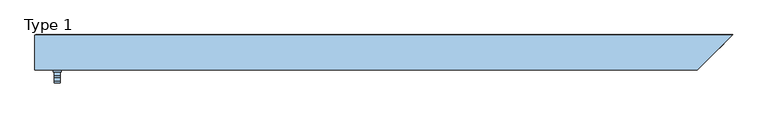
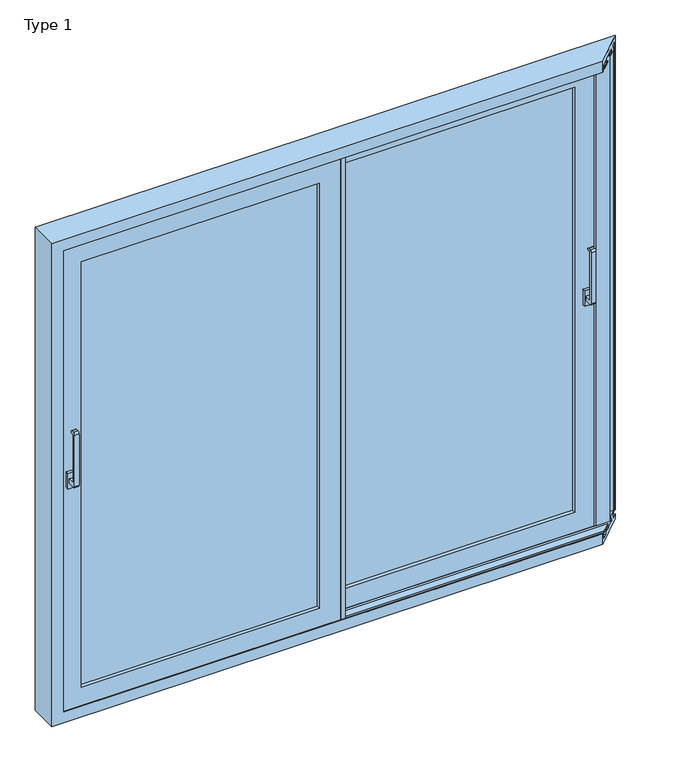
"""IFC4 building model written with IfcOpenShell, lengths in millimetres: window geometry, ETEM_E50_Double_Lift_Sliding-Corner Profile : Type 1."""

from ifc_helpers import new_model, si_unit, point, frame, frame_2d, origin, place, context, project, spatial, polyline, circle_curve, trimmed, segment, composite_curve, outline, extrude, faceted_brep, source, transform, mapped, element, save


def type_1_023e9ecd(model_context):
    return source(origin(), model_context, "Body", "SolidModel", [
        extrude(outline(polyline([(1109.8, 36.4240972), (1079.8, 36.4240972), (1079.8, 49.4240972), (1109.8, 49.4240972), (1109.8, 36.4240972)])), frame((0.0, 0.0, 1065.0), z_axis=(0.0, 0.0, 1.0), x_axis=(1.0, 0.0, 0.0)), (0.0, 0.0, 1.0), 70.0),
        extrude(outline(composite_curve([segment(polyline([(36.4240972, 1090.0), (4.8504124, 1090.0)]), True, "CONTINUOUS"), segment(trimmed(circle_curve(frame_2d((4.8504124, 1098.4263152)), 8.4263152), [point((4.8504124, 1090.0))], [point((-3.5759028, 1098.4263152))], False, "CARTESIAN"), True, "CONTINUOUS"), segment(polyline([(-3.5759028, 1098.4263152), (-3.5759028, 1331.5736848)]), True, "CONTINUOUS"), segment(trimmed(circle_curve(frame_2d((4.8504124, 1331.5736848)), 8.4263152), [point((-3.5759028, 1331.5736848))], [point((4.8504124, 1340.0))], False, "CARTESIAN"), True, "CONTINUOUS"), segment(polyline([(4.8504124, 1340.0), (16.4240972, 1340.0)]), True, "CONTINUOUS"), segment(trimmed(circle_curve(frame_2d((16.4240972, 1335.0)), 5.0), [point((16.4240972, 1340.0))], [point((16.4240972, 1330.0))], False, "CARTESIAN"), True, "CONTINUOUS"), segment(polyline([(16.4240972, 1330.0), (9.9596311, 1330.0)]), True, "CONTINUOUS"), segment(trimmed(circle_curve(frame_2d((9.9596311, 1326.4644661)), 3.5355339), [point((9.9596311, 1330.0))], [point((6.4240972, 1326.4644661))], True, "CARTESIAN"), True, "CONTINUOUS"), segment(polyline([(6.4240972, 1326.4644661), (6.4240972, 1113.5355339)]), True, "CONTINUOUS"), segment(trimmed(circle_curve(frame_2d((9.9596311, 1113.5355339)), 3.5355339), [point((6.4240972, 1113.5355339))], [point((9.9596311, 1110.0))], True, "CARTESIAN"), True, "CONTINUOUS"), segment(polyline([(9.9596311, 1110.0), (36.4240972, 1110.0), (36.4240972, 1090.0)]), True, "CONTINUOUS")], self_intersect=False)), frame((1084.8, 0.0, 0.0), z_axis=(1.0, 0.0, 0.0), x_axis=(0.0, 1.0, 0.0)), (0.0, 0.0, 1.0), 20.0),
        extrude(outline(polyline([(-1154.999965, -28.6518056), (-1184.999965, -28.6518056), (-1184.999965, -15.6518056), (-1154.999965, -15.6518056), (-1154.999965, -28.6518056)])), frame((0.0, 0.0, 1065.0), z_axis=(0.0, 0.0, 1.0), x_axis=(1.0, 0.0, 0.0)), (0.0, 0.0, 1.0), 70.0),
        extrude(outline(composite_curve([segment(polyline([(-28.6518056, 1090.0), (-60.2254904, 1090.0)]), True, "CONTINUOUS"), segment(trimmed(circle_curve(frame_2d((-60.2254904, 1098.4263152)), 8.4263152), [point((-60.2254904, 1090.0))], [point((-68.6518056, 1098.4263152))], False, "CARTESIAN"), True, "CONTINUOUS"), segment(polyline([(-68.6518056, 1098.4263152), (-68.6518056, 1331.5736848)]), True, "CONTINUOUS"), segment(trimmed(circle_curve(frame_2d((-60.2254904, 1331.5736848)), 8.4263152), [point((-68.6518056, 1331.5736848))], [point((-60.2254904, 1340.0))], False, "CARTESIAN"), True, "CONTINUOUS"), segment(polyline([(-60.2254904, 1340.0), (-48.6518056, 1340.0)]), True, "CONTINUOUS"), segment(trimmed(circle_curve(frame_2d((-48.6518056, 1335.0)), 5.0), [point((-48.6518056, 1340.0))], [point((-48.6518056, 1330.0))], False, "CARTESIAN"), True, "CONTINUOUS"), segment(polyline([(-48.6518056, 1330.0), (-55.1162717, 1330.0)]), True, "CONTINUOUS"), segment(trimmed(circle_curve(frame_2d((-55.1162717, 1326.4644661)), 3.5355339), [point((-55.1162717, 1330.0))], [point((-58.6518056, 1326.4644661))], True, "CARTESIAN"), True, "CONTINUOUS"), segment(polyline([(-58.6518056, 1326.4644661), (-58.6518056, 1113.5355339)]), True, "CONTINUOUS"), segment(trimmed(circle_curve(frame_2d((-55.1162717, 1113.5355339)), 3.5355339), [point((-58.6518056, 1113.5355339))], [point((-55.1162717, 1110.0))], True, "CARTESIAN"), True, "CONTINUOUS"), segment(polyline([(-55.1162717, 1110.0), (-28.6518056, 1110.0), (-28.6518056, 1090.0)]), True, "CONTINUOUS")], self_intersect=False)), frame((-1179.999965, 0.0, 0.0), z_axis=(1.0, 0.0, 0.0), x_axis=(0.0, 1.0, 0.0)), (0.0, 0.0, 1.0), 20.0),
        faceted_brep([(-2.1, -10.9518056, 2160.5), (-2.1, -15.6518056, 2160.5), (-2.1, -15.6518056, 39.5), (-2.1, -10.9518056, 39.5), (-1210.499965, -15.6518056, 2160.5), (-1210.499965, -15.6518056, 39.5), (-93.6, -15.6518056, 131.0), (-1118.999965, -15.6518056, 131.0), (-1118.999965, -15.6518056, 2069.0), (-93.6, -15.6518056, 2069.0), (-1210.499965, -10.9518056, 39.5), (-1210.499965, -10.9518056, 2160.5), (-31.3, -10.9518056, 2131.3), (-1181.299965, -10.9518056, 2131.3), (-1181.299965, -10.9518056, 68.7), (-31.3, -10.9518056, 68.7), (-31.3, 29.6481944, 2131.3), (-31.3, 29.6481944, 68.7), (-1181.299965, 29.6481944, 68.7), (-2.1, 29.6481944, 2160.5), (-1210.499965, 29.6481944, 2160.5), (-1210.499965, 29.6481944, 39.5), (-2.1, 29.6481944, 39.5), (-1181.299965, 29.6481944, 2131.3), (-2.1, 34.3481944, 2160.5), (-2.1, 34.3481944, 39.5), (-1210.499965, 34.3481944, 39.5), (-1210.499965, 34.3481944, 2160.5), (-93.6, 34.3481944, 2069.0), (-1118.999965, 34.3481944, 2069.0), (-1118.999965, 34.3481944, 131.0), (-93.6, 34.3481944, 131.0)], [[[0, 1, 2, 3]], [[1, 4, 5, 2], [6, 7, 8, 9]], [[3, 2, 5, 10]], [[3, 10, 11, 0], [12, 13, 14, 15]], [[16, 12, 15, 17]], [[17, 15, 14, 18]], [[19, 20, 21, 22], [17, 18, 23, 16]], [[24, 19, 22, 25]], [[25, 22, 21, 26]], [[25, 26, 27, 24], [28, 29, 30, 31]], [[10, 5, 4, 11]], [[18, 14, 13, 23]], [[26, 21, 20, 27]], [[6, 31, 30, 7]], [[7, 30, 29, 8]], [[9, 28, 31, 6]], [[11, 4, 1, 0]], [[23, 13, 12, 16]], [[27, 20, 19, 24]], [[8, 29, 28, 9]]]),
        faceted_brep([(-73.1, 94.6481944, 2160.5), (-73.1, 99.3481944, 2160.5), (-73.1, 99.3481944, 39.5), (-73.1, 94.6481944, 39.5), (1135.299965, 99.3481944, 39.5), (1135.299965, 94.6481944, 39.5), (1135.299965, 99.3481944, 2160.5), (1043.8, 99.3481944, 130.999965), (1043.8, 99.3481944, 2069.000035), (18.399965, 99.3481944, 2069.000035), (18.399965, 99.3481944, 130.999965), (1135.299965, 94.6481944, 2160.5), (-43.9, 94.6481944, 68.7), (-43.9, 94.6481944, 2131.3), (1106.099965, 94.6481944, 2131.3), (1106.099965, 94.6481944, 68.7), (-43.9, 54.0481944, 2131.3), (-43.9, 54.0481944, 68.7), (1106.099965, 54.0481944, 68.7), (1106.099965, 54.0481944, 2131.3), (-73.1, 54.0481944, 39.5), (-73.1, 54.0481944, 2160.5), (1135.299965, 54.0481944, 2160.5), (1135.299965, 54.0481944, 39.5), (-73.1, 49.4240972, 2160.5), (-73.1, 49.4240972, 39.5), (1135.299965, 49.4240972, 39.5), (1135.299965, 49.4240972, 2160.5), (18.399965, 49.4240972, 130.999965), (18.399965, 49.4240972, 2069.000035), (1043.8, 49.4240972, 2069.000035), (1043.8, 49.4240972, 130.999965)], [[[0, 1, 2, 3]], [[3, 2, 4, 5]], [[2, 1, 6, 4], [7, 8, 9, 10]], [[5, 4, 6, 11]], [[5, 11, 0, 3], [12, 13, 14, 15]], [[16, 13, 12, 17]], [[17, 12, 15, 18]], [[18, 15, 14, 19]], [[20, 21, 22, 23], [18, 19, 16, 17]], [[24, 21, 20, 25]], [[25, 20, 23, 26]], [[26, 23, 22, 27]], [[26, 27, 24, 25], [28, 29, 30, 31]], [[9, 29, 28, 10]], [[10, 28, 31, 7]], [[7, 31, 30, 8]], [[11, 6, 1, 0]], [[19, 14, 13, 16]], [[27, 22, 21, 24]], [[8, 30, 29, 9]]]),
        extrude(outline(polyline([(18.399965, -15.6518056), (-2.1, -15.6518056), (-2.1, 45.3481944), (18.399965, 45.3481944), (18.399965, -15.6518056)])), frame((0.0, 0.0, 39.5), z_axis=(0.0, 0.0, 1.0), x_axis=(1.0, 0.0, 0.0)), (0.0, 0.0, 1.0), 2121.0),
        extrude(outline(polyline([(-93.6, 38.3481944), (-93.6, 99.3481944), (-73.1, 99.3481944), (-73.1, 38.3481944), (-93.6, 38.3481944)])), frame((0.0, 0.0, 39.5), z_axis=(0.0, 0.0, 1.0), x_axis=(1.0, 0.0, 0.0)), (0.0, 0.0, 1.0), 2121.0),
        extrude(outline(polyline([(-93.6, 0.3481944), (-1118.999965, 0.3481944), (-1118.999965, 5.3481944), (-93.6, 5.3481944), (-93.6, 0.3481944)])), frame((0.0, 0.0, 131.0), z_axis=(0.0, 0.0, 1.0), x_axis=(1.0, 0.0, 0.0)), (0.0, 0.0, 1.0), 1938.0),
        extrude(outline(polyline([(18.399965, 91.3480733), (1043.8, 91.3480733), (1043.8, 86.3480733), (18.399965, 86.3480733), (18.399965, 91.3480733)])), frame((0.0, 0.0, 130.999965), z_axis=(0.0, 0.0, 1.0), x_axis=(1.0, 0.0, 0.0)), (0.0, 0.0, 1.0), 1938.00007),
        faceted_brep([(-1246.499965, 103.5481944, 0.0), (-1246.499965, 105.0, 0.0), (-1201.499965, 105.0, 0.0), (-1201.499965, 103.5481944, 0.0), (1250.0, 103.5481944, 0.0), (1125.2, -21.2518056, 0.0), (-1250.0, -21.2518056, 0.0), (-1250.0, 103.5481944, 0.0), (-1246.499965, 103.5481944, 2196.499965), (-1246.499965, 105.0, 2196.499965), (1251.5, 105.0, 2196.499965), (1251.4518056, 105.0, 2151.499965), (-1201.499965, 105.0, 2151.499965), (-1201.499965, 101.4, 2151.499965), (-1201.499965, 101.4, 19.8), (-1201.499965, 103.5481944, 19.8), (1250.0, 103.5481944, 19.8), (-1250.0, 103.5481944, 2200.0), (1250.0, 103.5481944, 2200.0), (1250.0, 103.5481944, 2196.499965), (1238.5, 92.0481944, 19.8), (1238.5, 92.0481944, 21.8), (1225.3, 78.8481944, 21.8), (1225.3, 78.8481944, 40.5), (1236.8, 90.3481944, 40.5), (1236.8, 90.3481944, 48.5), (1204.8, 58.3481944, 48.5), (1204.8, 58.3481944, 40.5), (1216.3, 69.8481944, 40.5), (1216.3, 69.8481944, 21.8), (1160.3, 13.8481944, 21.8), (1160.3, 13.8481944, 40.5), (1171.8, 25.3481944, 40.5), (1171.8, 25.3481944, 48.5), (1139.8, -6.6518056, 48.5), (1139.8, -6.6518056, 40.5), (1151.3, 4.8481944, 40.5), (1151.3, 4.8481944, 21.8), (1128.8, -17.6518056, 21.8), (1128.8, -17.6518056, 48.5), (1125.2, -21.2518056, 48.5), (-1201.5, -21.2518056, 48.5), (-1201.5, -21.2518056, 2151.5), (1125.2, -21.2518056, 2151.5), (1125.2, -21.2518056, 2200.0), (-1250.0, -21.2518056, 2200.0), (-1228.2, 92.0481944, 21.8), (-1228.2, 78.8481944, 21.8), (-1228.199965, 92.0481944, 19.8), (-1228.199965, 101.4, 19.8), (-1228.199965, 101.4, 2178.199965), (-1228.199965, 78.8481944, 2178.2), (1225.3, 78.8481944, 2178.2), (1225.3, 78.8481944, 2159.5), (-1209.5, 78.8481944, 2159.5), (-1209.5, 78.8481944, 40.5), (-1209.5, 90.3481944, 40.5), (-1209.5, 90.3481944, 2159.5), (1236.8, 90.3481944, 2159.5), (1236.8, 90.3481944, 2151.5), (-1201.5, 90.3481944, 2151.5), (-1201.5, 90.3481944, 48.5), (-1201.5, 58.3481944, 48.5), (-1201.5, 58.3481944, 2151.5), (1204.8, 58.3481944, 2151.5), (1204.8, 58.3481944, 2159.5), (-1209.5, 58.3481944, 2159.5), (-1209.5, 58.3481944, 40.5), (-1228.2, 69.8481944, 21.8), (-1228.2, 13.8481944, 21.8), (-1228.2, 69.8481944, 2178.2), (-1228.2, 13.8481944, 2178.2), (1160.3, 13.8481944, 2178.2), (1160.3, 13.8481944, 2159.5), (-1209.5, 13.8481944, 2159.5), (-1209.5, 13.8481944, 40.5), (-1209.5, 69.8481944, 40.5), (-1209.5, 69.8481944, 2159.5), (1216.3, 69.8481944, 2159.5), (1216.3, 69.8481944, 2178.2), (-1201.5, 25.3481944, 48.5), (-1201.5, -6.6518056, 48.5), (-1201.5, 25.3481944, 2151.5), (-1201.5, -6.6518056, 2151.5), (1139.8, -6.6518056, 2151.5), (1139.8, -6.6518056, 2159.5), (-1209.5, -6.6518056, 2159.5), (-1209.5, -6.6518056, 40.5), (-1209.5, 25.3481944, 40.5), (-1209.5, 25.3481944, 2159.5), (1171.8, 25.3481944, 2159.5), (1171.8, 25.3481944, 2151.5), (-1228.2, 4.8481944, 21.8), (-1228.2, -17.6518056, 21.8), (-1228.2, 4.8481944, 2178.2), (-1228.2, -17.6518056, 2178.2), (1128.8, -17.6518056, 2178.2), (1128.8, -17.6518056, 2151.5), (-1201.5, -17.6518056, 2151.5), (-1201.5, -17.6518056, 48.5), (-1209.5, 4.8481944, 40.5), (-1209.5, 4.8481944, 2159.5), (1151.3, 4.8481944, 2159.5), (1151.3, 4.8481944, 2178.2), (1247.8518056, 101.4, 2151.499965), (1247.8518056, 101.4, 2178.199965)], [[[0, 1, 2, 3, 4, 5, 6, 7]], [[1, 0, 8, 9]], [[2, 1, 9, 10, 11, 12]], [[12, 13, 14, 15, 3, 2]], [[4, 3, 15, 16]], [[7, 17, 18, 19, 8, 0]], [[5, 4, 16, 20, 21, 22, 23, 24, 25, 26, 27, 28, 29, 30, 31, 32, 33, 34, 35, 36, 37, 38, 39, 40]], [[41, 42, 43, 44, 45, 6, 5, 40]], [[7, 6, 45, 17]], [[46, 47, 22, 21]], [[47, 46, 48, 49, 50, 51]], [[47, 51, 52, 53, 54, 55, 23, 22]], [[48, 46, 21, 20]], [[55, 56, 24, 23]], [[55, 54, 57, 56]], [[56, 57, 58, 59, 60, 61, 25, 24]], [[61, 62, 26, 25]], [[61, 60, 63, 62]], [[62, 63, 64, 65, 66, 67, 27, 26]], [[68, 69, 30, 29]], [[68, 70, 71, 69]], [[69, 71, 72, 73, 74, 75, 31, 30]], [[76, 77, 78, 79, 70, 68, 29, 28]], [[80, 81, 34, 33]], [[81, 80, 82, 83]], [[81, 83, 84, 85, 86, 87, 35, 34]], [[88, 89, 90, 91, 82, 80, 33, 32]], [[75, 88, 32, 31]], [[75, 74, 89, 88]], [[92, 93, 38, 37]], [[92, 94, 95, 93]], [[93, 95, 96, 97, 98, 99, 39, 38]], [[100, 101, 102, 103, 94, 92, 37, 36]], [[99, 41, 40, 39]], [[99, 98, 42, 41]], [[67, 76, 28, 27]], [[77, 76, 67, 66]], [[87, 100, 36, 35]], [[87, 86, 101, 100]], [[16, 15, 14, 49, 48, 20]], [[14, 13, 104, 105, 50, 49]], [[9, 8, 19, 10]], [[13, 12, 11, 104]], [[18, 17, 45, 44]], [[57, 54, 53, 58]], [[63, 60, 59, 64]], [[71, 70, 79, 72]], [[83, 82, 91, 84]], [[89, 74, 73, 90]], [[95, 94, 103, 96]], [[42, 98, 97, 43]], [[77, 66, 65, 78]], [[101, 86, 85, 102]], [[51, 50, 105, 52]], [[10, 19, 18, 44, 43, 97, 96, 103, 102, 85, 84, 91, 90, 73, 72, 79, 78, 65, 64, 59, 58, 53, 52, 105, 104, 11]]]),
        extrude(outline(polyline([(18.399965, 70.3481944), (1043.8, 70.3481944), (1043.8, 65.3481944), (18.399965, 65.3481944), (18.399965, 70.3481944)])), frame((0.0, 0.0, 130.999965), z_axis=(0.0, 0.0, 1.0), x_axis=(1.0, 0.0, 0.0)), (0.0, 0.0, 1.0), 1938.00007),
        extrude(outline(polyline([(-93.6, 21.3480733), (-1118.999965, 21.3480733), (-1118.999965, 26.3480733), (-93.6, 26.3480733), (-93.6, 21.3480733)])), frame((0.0, 0.0, 131.0), z_axis=(0.0, 0.0, 1.0), x_axis=(1.0, 0.0, 0.0)), (0.0, 0.0, 1.0), 1938.0),
        extrude(outline(polyline([(1192.8000006, 46.348195), (1135.3000003, 46.348195), (1128.3000003, 48.348195), (1128.3000003, 49.4240972), (1135.299965, 49.4240972), (1135.299965, 99.3481944), (1128.3000003, 99.3481944), (1128.3000003, 100.3481938), (1135.3000003, 102.3481938), (1248.7999994, 102.3481938), (1247.942271, 101.4904654), (1235.1037201, 101.0481944), (1235.1037201, 91.1481944), (1203.1999999, 91.1481944), (1203.1999999, 61.3743891), (1198.3693601, 56.5437493), (1192.8000006, 56.3398163), (1192.8000006, 46.348195)])), frame((0.0, 0.0, 39.5), z_axis=(0.0, 0.0, 1.0), x_axis=(1.0, 0.0, 0.0)), (0.0, 0.0, 1.0), 2121.0),
    ])


if __name__ == "__main__":
    model = new_model("IFC4")
    model_context = context("Model", 3, world=origin())
    ifc_project = project(units=[si_unit("LENGTHUNIT", "METRE", prefix="MILLI")], contexts=[model_context])
    site = spatial("IfcSite", under=ifc_project)
    building = spatial("IfcBuilding", under=site)
    placement = place(None, origin())
    type_1_shape = type_1_023e9ecd(model_context)
    element("IfcWindow", 1, ObjectType="ETEM_E50_Double_Lift_Sliding-Corner Profile : Type 1", at=placement, inside=building, context=model_context, shape_type="MappedRepresentation", body=[
        mapped(type_1_shape, transform((0.0, 0.0, 0.0), x_axis=(1.0, 0.0, 0.0), y_axis=(0.0, 1.0, 0.0), z_axis=(0.0, 0.0, 1.0))),
    ])
    save(model, "model.ifc")
